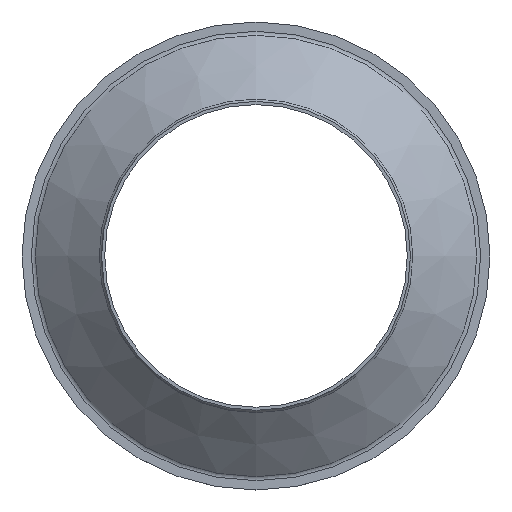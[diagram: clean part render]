
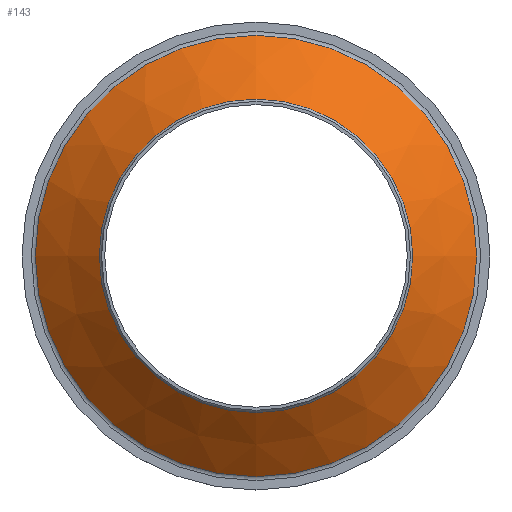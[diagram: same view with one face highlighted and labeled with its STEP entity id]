
A CAD part, top view. The second image highlights one B-rep face of the part: STEP entity #143.
In plain terms, the highlighted conical face has half-angle 50.332 degrees and reference radius 25.112 mm.
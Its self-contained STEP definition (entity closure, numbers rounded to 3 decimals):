
#98=CARTESIAN_POINT('',(35.362,0.,1.23));
#99=VERTEX_POINT('',#98);
#107=CARTESIAN_POINT('',(0.,0.,1.23));
#108=DIRECTION('',(1.,0.,-0.));
#109=DIRECTION('',(0.,-0.,1.));
#110=AXIS2_PLACEMENT_3D('',#107,#109,#108);
#111=CIRCLE('',#110,35.362);
#112=EDGE_CURVE('',#99,#99,#111,.T.);
#119=CARTESIAN_POINT('',(0.,0.,9.73));
#120=DIRECTION('',(1.,0.,0.));
#121=DIRECTION('',(0.,0.,-1.));
#122=AXIS2_PLACEMENT_3D('',#119,#121,#120);
#123=CONICAL_SURFACE('',#122,25.112,0.878);
#124=CARTESIAN_POINT('',(25.112,0.,9.73));
#125=VERTEX_POINT('',#124);
#126=CARTESIAN_POINT('',(35.362,0.,1.23));
#127=DIRECTION('',(-0.77,0.,0.638));
#128=VECTOR('',#127,13.316);
#129=LINE('',#126,#128);
#130=EDGE_CURVE('',#99,#125,#129,.T.);
#131=ORIENTED_EDGE('E3',*,*,#130,.T.);
#132=CARTESIAN_POINT('',(0.,0.,9.73));
#133=DIRECTION('',(1.,0.,-0.));
#134=DIRECTION('',(0.,0.,1.));
#135=AXIS2_PLACEMENT_3D('',#132,#134,#133);
#136=CIRCLE('',#135,25.112);
#137=EDGE_CURVE('',#125,#125,#136,.T.);
#138=ORIENTED_EDGE('E12',*,*,#137,.T.);
#139=ORIENTED_EDGE('E12',*,*,#130,.F.);
#140=ORIENTED_EDGE('E12',*,*,#112,.F.);
#141=EDGE_LOOP('',(#131,#138,#139,#140));
#142=FACE_OUTER_BOUND('',#141,.F.);
#143=ADVANCED_FACE('F5',(#142),#123,.T.);
